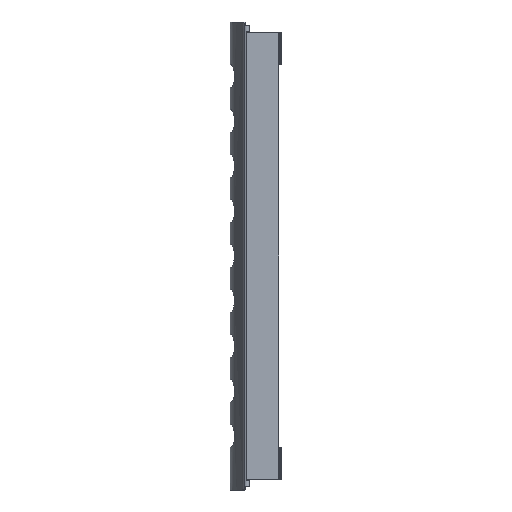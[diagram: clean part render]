
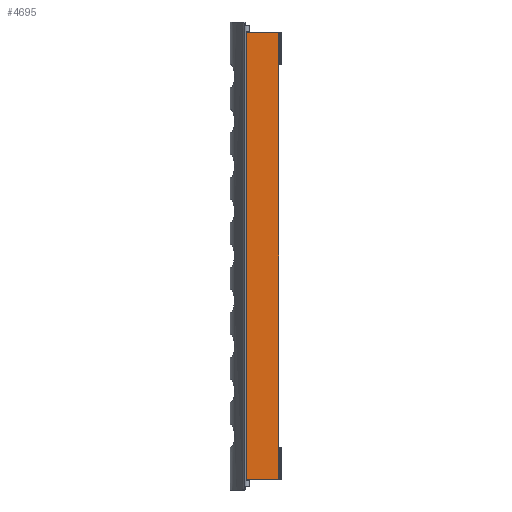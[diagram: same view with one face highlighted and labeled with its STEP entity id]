
A CAD part, front view. The second image highlights one B-rep face of the part: STEP entity #4695.
In plain terms, the highlighted planar face has unit normal (0, -1, 0).
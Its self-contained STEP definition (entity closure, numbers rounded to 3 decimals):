
#386=CARTESIAN_POINT('',(28.878,-44.9,187.0));
#387=VERTEX_POINT('',#386);
#470=CARTESIAN_POINT('',(28.878,-44.9,-219.));
#471=VERTEX_POINT('',#470);
#479=CARTESIAN_POINT('',(-2.5,-44.9,-219.));
#480=VERTEX_POINT('',#479);
#481=CARTESIAN_POINT('',(-2.5,-44.9,-219.));
#482=DIRECTION('',(1.0,0.0,0.0));
#483=VECTOR('',#482,31.378);
#484=LINE('',#481,#483);
#485=EDGE_CURVE('',#480,#471,#484,.T.);
#617=CARTESIAN_POINT('',(28.878,-44.9,-187.0));
#618=VERTEX_POINT('',#617);
#818=CARTESIAN_POINT('',(-2.5,-44.9,219.0));
#819=VERTEX_POINT('',#818);
#890=CARTESIAN_POINT('',(-2.5,-44.9,-219.));
#891=DIRECTION('',(0.0,0.0,1.0));
#892=VECTOR('',#891,438.);
#893=LINE('',#890,#892);
#894=EDGE_CURVE('',#480,#819,#893,.T.);
#3533=CARTESIAN_POINT('',(28.878,-44.9,-187.0));
#3534=DIRECTION('',(0.0,0.0,1.0));
#3535=VECTOR('',#3534,374.0);
#3536=LINE('',#3533,#3535);
#3537=EDGE_CURVE('',#618,#387,#3536,.T.);
#3548=CARTESIAN_POINT('',(28.878,-44.9,-219.));
#3549=DIRECTION('',(0.0,0.0,1.0));
#3550=VECTOR('',#3549,32.);
#3551=LINE('',#3548,#3550);
#3552=EDGE_CURVE('',#471,#618,#3551,.T.);
#3566=CARTESIAN_POINT('',(28.878,-44.9,219.0));
#3567=VERTEX_POINT('',#3566);
#3575=CARTESIAN_POINT('',(28.878,-44.9,187.0));
#3576=DIRECTION('',(0.0,0.0,1.0));
#3577=VECTOR('',#3576,32.0);
#3578=LINE('',#3575,#3577);
#3579=EDGE_CURVE('',#387,#3567,#3578,.T.);
#4081=CARTESIAN_POINT('',(28.878,-44.9,219.0));
#4082=DIRECTION('',(-1.0,0.0,0.0));
#4083=VECTOR('',#4082,31.378);
#4084=LINE('',#4081,#4083);
#4085=EDGE_CURVE('',#3567,#819,#4084,.T.);
#4682=CARTESIAN_POINT('',(29.717,-44.9,-224.));
#4683=DIRECTION('',(0.0,-1.0,0.0));
#4684=DIRECTION('',(0.0,0.0,-1.0));
#4685=AXIS2_PLACEMENT_3D('',#4682,#4683,#4684);
#4686=PLANE('',#4685);
#4687=ORIENTED_EDGE('',*,*,#485,.T.);
#4688=ORIENTED_EDGE('',*,*,#3552,.T.);
#4689=ORIENTED_EDGE('',*,*,#3537,.T.);
#4690=ORIENTED_EDGE('',*,*,#3579,.T.);
#4691=ORIENTED_EDGE('',*,*,#4085,.T.);
#4692=ORIENTED_EDGE('',*,*,#894,.F.);
#4693=EDGE_LOOP('',(#4687,#4688,#4689,#4690,#4691,#4692));
#4694=FACE_OUTER_BOUND('',#4693,.T.);
#4695=ADVANCED_FACE('',(#4694),#4686,.T.);
